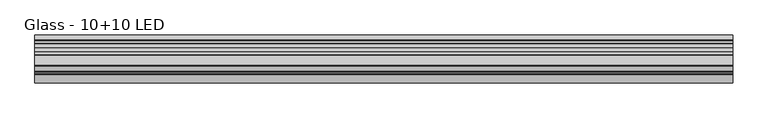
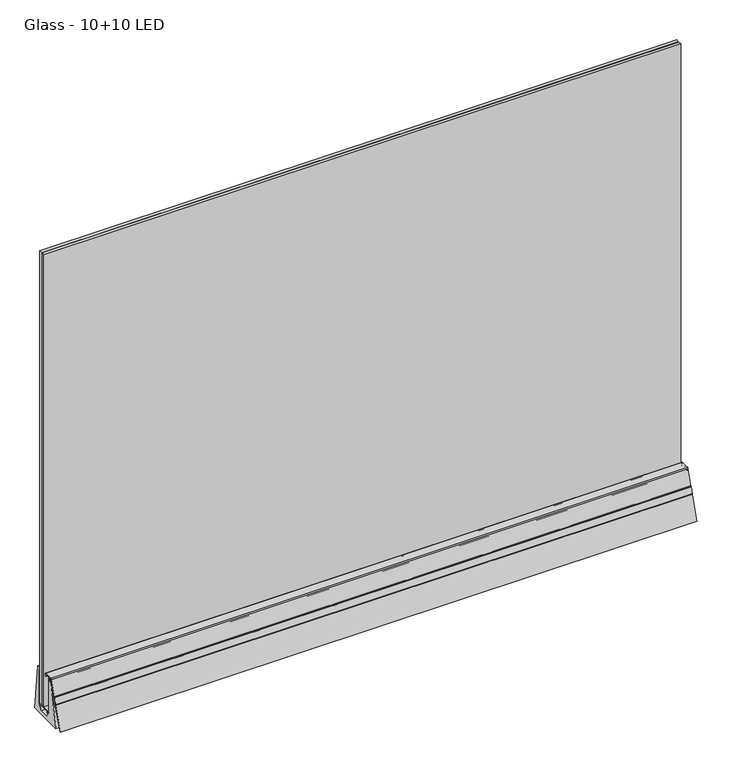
"""IFC4 building model written with IfcOpenShell, lengths in millimetres: proxy geometry, Construction_Slope-Glazing_Faraone_Linea-3-Maxi : Glass - 10+10 LED."""

from ifc_helpers import new_model, si_unit, point, frame, frame_2d, origin, place, context, project, spatial, polyline, circle_curve, trimmed, segment, composite_curve, outline, extrude, source, transform, mapped, element, save


def glass_10_10_led_cbf4bd5c(model_context):
    return source(origin(), model_context, "Body", "SweptSolid", [
        extrude(outline(polyline([(-50.129515, 80.0043708), (-47.8245082, 93.0767141), (-41.6751268, 91.8813954), (-44.115606, 78.9439564), (-50.129515, 80.0043708)])), frame((-1000.0, 0.0, 0.0), z_axis=(1.0, 0.0, 0.0), x_axis=(0.0, 1.0, 0.0)), (0.0, 0.0, 1.0), 2000.0),
        extrude(outline(composite_curve([segment(polyline([(-55.5157622, 78.4484523), (-48.9181738, 97.9110521)]), True, "CONTINUOUS"), segment(trimmed(circle_curve(frame_2d((-48.2435686, 97.6823691)), 0.7123118), [point((-48.9181738, 97.9110521))], [point((-48.0148855, 98.3569742))], False, "CARTESIAN"), True, "CONTINUOUS"), segment(polyline([(-48.0148855, 98.3569742), (-47.2688954, 98.1040925), (-48.0113388, 95.9139166), (-42.9033611, 94.1823733), (-42.328843, 93.4993051)]), True, "CONTINUOUS"), segment(trimmed(circle_curve(frame_2d((-42.6043998, 93.2675385)), 0.3600658), [point((-42.328843, 93.4993051))], [point((-42.7199966, 92.926533))], False, "CARTESIAN"), True, "CONTINUOUS"), segment(polyline([(-42.7199966, 92.926533), (-48.3742751, 94.8432658), (-53.2237164, 80.5376243), (-47.5694379, 78.6208915)]), True, "CONTINUOUS"), segment(trimmed(circle_curve(frame_2d((-47.6850347, 78.279886)), 0.3600658), [point((-47.5694379, 78.6208915))], [point((-47.6072173, 77.9283298))], False, "CARTESIAN"), True, "CONTINUOUS"), segment(polyline([(-47.6072173, 77.9283298), (-48.4786777, 77.735431), (-53.5866555, 79.4669744), (-54.3203301, 77.3026662), (-55.076704, 77.5590679)]), True, "CONTINUOUS"), segment(trimmed(circle_curve(frame_2d((-54.8515409, 78.2232892)), 0.7013476), [point((-55.076704, 77.5590679))], [point((-55.5157622, 78.4484523))], False, "CARTESIAN"), True, "CONTINUOUS")], self_intersect=False)), frame((-1000.0, 0.0, 0.0), z_axis=(1.0, 0.0, 0.0), x_axis=(0.0, 1.0, 0.0)), (0.0, 0.0, 1.0), 2000.0),
        extrude(outline(composite_curve([segment(trimmed(circle_curve(frame_2d((-0.5622607, 149.6202564)), 0.5), [point((-0.5622607, 150.1202564))], [point((-0.0622607, 149.6202564))], False, "CARTESIAN"), True, "CONTINUOUS"), segment(polyline([(-0.0622607, 149.6202564), (-0.0622607, 147.5116834), (-0.8559184, 147.5116834), (-0.8559184, 148.7592807), (-1.7540112, 148.7592807)]), True, "CONTINUOUS"), segment(trimmed(circle_curve(frame_2d((-1.7540112, 148.251018)), 0.5082627), [point((-1.7540112, 148.7592807))], [point((-2.2622739, 148.251018))], True, "CARTESIAN"), True, "CONTINUOUS"), segment(polyline([(-2.2622739, 148.251018), (-2.2622739, 143.7675435)]), True, "CONTINUOUS"), segment(trimmed(circle_curve(frame_2d((-1.7540112, 143.7675435)), 0.5082627), [point((-2.2622739, 143.7675435))], [point((-1.7540112, 143.2592807))], True, "CARTESIAN"), True, "CONTINUOUS"), segment(polyline([(-1.7540112, 143.2592807), (-0.8559184, 143.2592807), (-0.8559184, 144.5068781), (-0.0622607, 144.5068781), (-0.0622607, 142.5592807)]), True, "CONTINUOUS"), segment(trimmed(circle_curve(frame_2d((-0.5622607, 142.5592807)), 0.5), [point((-0.0622607, 142.5592807))], [point((-0.5622607, 142.0592807))], False, "CARTESIAN"), True, "CONTINUOUS"), segment(polyline([(-0.5622607, 142.0592807), (-2.9622736, 142.0592807)]), True, "CONTINUOUS"), segment(trimmed(circle_curve(frame_2d((-2.9622736, 142.559281)), 0.5000003), [point((-2.9622736, 142.0592807))], [point((-3.4622739, 142.559281))], False, "CARTESIAN"), True, "CONTINUOUS"), segment(polyline([(-3.4622739, 142.559281), (-3.4622739, 148.1202567)]), True, "CONTINUOUS"), segment(trimmed(circle_curve(frame_2d((-3.9622739, 148.1202567)), 0.5), [point((-3.4622739, 148.1202567))], [point((-3.9622739, 148.6202567))], True, "CARTESIAN"), True, "CONTINUOUS"), segment(polyline([(-3.9622739, 148.6202567), (-18.4381651, 148.6202569), (-18.4381651, 134.8497503), (-20.5252665, 134.8497503), (-20.5252665, 139.9087036), (-19.6381651, 139.9087036), (-19.6381651, 147.8202569)]), True, "CONTINUOUS"), segment(trimmed(circle_curve(frame_2d((-19.6381651, 148.2202569)), 0.4), [point((-19.6381651, 147.8202569))], [point((-19.6381651, 148.6202569))], True, "CARTESIAN"), True, "CONTINUOUS"), segment(polyline([(-19.6381651, 148.6202569), (-28.9632186, 148.6202569)]), True, "CONTINUOUS"), segment(trimmed(circle_curve(frame_2d((-28.9632186, 147.1202566)), 1.5000003), [point((-28.9632186, 148.6202569))], [point((-30.4632189, 147.1202566))], True, "CARTESIAN"), True, "CONTINUOUS"), segment(polyline([(-30.4632189, 147.1202566), (-30.4632189, 139.9087036), (-29.5827199, 139.9087036), (-29.5827199, 134.8497503), (-31.6632189, 134.8505456), (-31.6632189, 141.4097348)]), True, "CONTINUOUS"), segment(trimmed(circle_curve(frame_2d((-31.9593497, 141.4097348)), 0.2961308), [point((-31.6632189, 141.4097348))], [point((-32.2398046, 141.5048056))], True, "CARTESIAN"), True, "CONTINUOUS"), segment(polyline([(-32.2398046, 141.5048056), (-46.3413122, 99.90597), (-45.3926644, 99.5843897)]), True, "CONTINUOUS"), segment(trimmed(circle_curve(frame_2d((-45.5526494, 99.1124409)), 0.4983281), [point((-45.3926644, 99.5843897))], [point((-45.0807005, 98.9524559))], False, "CARTESIAN"), True, "CONTINUOUS"), segment(polyline([(-45.0807005, 98.9524559), (-45.4664894, 97.8143954), (-39.7713257, 95.883803)]), True, "CONTINUOUS"), segment(trimmed(circle_curve(frame_2d((-39.9945463, 95.2253117)), 0.6952973), [point((-39.7713257, 95.883803))], [point((-39.3112991, 95.096426))], False, "CARTESIAN"), True, "CONTINUOUS"), segment(polyline([(-39.3112991, 95.096426), (-43.284602, 74.0332005)]), True, "CONTINUOUS"), segment(trimmed(circle_curve(frame_2d((-43.9554102, 74.1597397)), 0.6826389), [point((-43.284602, 74.0332005))], [point((-44.174567, 73.5132367))], False, "CARTESIAN"), True, "CONTINUOUS"), segment(polyline([(-44.174567, 73.5132367), (-52.7220729, 76.4107389), (-53.1078618, 75.2726784)]), True, "CONTINUOUS"), segment(trimmed(circle_curve(frame_2d((-53.5798106, 75.4326635)), 0.4983281), [point((-53.1078618, 75.2726784))], [point((-53.7397956, 74.9607146))], False, "CARTESIAN"), True, "CONTINUOUS"), segment(polyline([(-53.7397956, 74.9607146), (-54.6884434, 75.2822949), (-79.3588416, 2.5056904), (-81.0635576, 3.0835687), (-56.092277, 76.7477633)]), True, "CONTINUOUS"), segment(trimmed(circle_curve(frame_2d((-55.5592707, 76.5670805)), 0.5627984), [point((-56.092277, 76.7477633))], [point((-55.3785879, 77.1000869))], False, "CARTESIAN"), True, "CONTINUOUS"), segment(polyline([(-55.3785879, 77.1000869), (-54.4909976, 76.7992044), (-53.8489105, 78.6933333), (-51.4812494, 77.8907245), (-50.0654797, 78.2733379), (-49.3248655, 78.0222785), (-49.5871205, 77.2486374), (-45.2859318, 75.7905859)]), True, "CONTINUOUS"), segment(trimmed(circle_curve(frame_2d((-45.1266639, 76.2604192)), 0.4960943), [point((-45.2859318, 75.7905859))], [point((-44.6391673, 76.1684593))], True, "CARTESIAN"), True, "CONTINUOUS"), segment(polyline([(-44.6391673, 76.1684593), (-41.276617, 93.993971)]), True, "CONTINUOUS"), segment(trimmed(circle_curve(frame_2d((-41.8171023, 94.0959265)), 0.5500176), [point((-41.276617, 93.993971))], [point((-41.6405227, 94.6168286))], True, "CARTESIAN"), True, "CONTINUOUS"), segment(polyline([(-41.6405227, 94.6168286), (-43.4872938, 95.2428619), (-43.7495488, 94.4692208), (-44.490163, 94.7202802), (-45.3814226, 95.8849489), (-47.7490837, 96.6875577), (-47.1069967, 98.5816866), (-47.994587, 98.8825691)]), True, "CONTINUOUS"), segment(trimmed(circle_curve(frame_2d((-47.8139042, 99.4155755)), 0.5627984), [point((-47.994587, 98.8825691))], [point((-48.3469106, 99.5962582))], False, "CARTESIAN"), True, "CONTINUOUS"), segment(polyline([(-48.3469106, 99.5962582), (-31.937351, 148.0037474)]), True, "CONTINUOUS"), segment(trimmed(circle_curve(frame_2d((-28.9850698, 147.0029594)), 3.117297), [point((-31.937351, 148.0037474))], [point((-28.9850698, 150.1202564))], False, "CARTESIAN"), True, "CONTINUOUS"), segment(polyline([(-28.9850698, 150.1202564), (-0.5622607, 150.1202564)]), True, "CONTINUOUS")], self_intersect=False)), frame((-1000.0, 0.0, 0.0), z_axis=(1.0, 0.0, 0.0), x_axis=(0.0, 1.0, 0.0)), (0.0, 0.0, 1.0), 2000.0),
        extrude(outline(polyline([(1000.0, 29.9536793), (1000.0, 20.0036793), (-1000.0, 20.0036793), (-1000.0, 29.9536793), (1000.0, 29.9536793)])), frame((0.0, 0.0, 32.9998941), z_axis=(0.0, 0.0, 1.0), x_axis=(1.0, 0.0, 0.0)), (0.0, 0.0, 1.0), 1500.0),
        extrude(outline(polyline([(1000.0, 18.4036793), (1000.0, 8.4536793), (-1000.0, 8.4536793), (-1000.0, 18.4036793), (1000.0, 18.4036793)])), frame((0.0, 0.0, 32.9998941), z_axis=(0.0, 0.0, 1.0), x_axis=(1.0, 0.0, 0.0)), (0.0, 0.0, 1.0), 1500.0),
        extrude(outline(polyline([(27.9495501, 27.4998941), (28.9495501, 27.4998941), (27.9495501, 23.9998941), (25.4495501, 23.9998941), (25.4495501, 29.9998941), (-10.950381, 29.9998941), (-10.950381, 23.9998941), (-13.450381, 23.9998941), (-14.4501535, 27.4998941), (-13.450381, 27.4998941), (-13.450381, 30.0001664), (-16.4959153, 30.0001664), (-16.4959153, 32.9998941), (30.7553177, 32.9998941), (30.7553177, 140.9999202), (33.4499946, 140.9999202), (33.4499946, 29.9998941), (27.9495501, 29.9998941), (27.9495501, 27.4998941)])), frame((-1000.0, 0.0, 0.0), z_axis=(1.0, 0.0, 0.0), x_axis=(0.0, 1.0, 0.0)), (0.0, 0.0, 1.0), 2000.0),
        extrude(outline(composite_curve([segment(polyline([(-57.25, 0.0), (-31.812192, 134.8497503), (-29.5827199, 134.8497503), (-29.5827199, 141.7168813), (-20.5252665, 141.7168813), (-20.5252665, 134.8497503), (-18.9499762, 134.8497503), (-18.9499762, 30.0001664), (-13.9493491, 30.0001664), (-13.9493491, 28.0001664), (-19.2314658, 28.0001664), (-7.6590914, 11.0005351), (22.522986, 11.0002742), (33.5998649, 28.0000261), (28.4500912, 28.0000261), (28.4500912, 29.9998941), (33.4499946, 29.9998941), (33.4499271, 149.9042043), (40.4619354, 149.9042043)]), True, "CONTINUOUS"), segment(trimmed(circle_curve(frame_2d((40.4619354, 148.7574992)), 1.1467051), [point((40.4619354, 149.9042043))], [point((41.6023587, 148.8773626))], False, "CARTESIAN"), True, "CONTINUOUS"), segment(polyline([(41.6023587, 148.8773626), (57.25, 0.0), (-57.25, 0.0)]), True, "CONTINUOUS")], self_intersect=False)), frame((-1000.0, 0.0, 0.0), z_axis=(1.0, 0.0, 0.0), x_axis=(0.0, 1.0, 0.0)), (0.0, 0.0, 1.0), 2000.0),
    ])


if __name__ == "__main__":
    model = new_model("IFC4")
    model_context = context("Model", 3, world=origin())
    ifc_project = project(units=[si_unit("LENGTHUNIT", "METRE", prefix="MILLI")], contexts=[model_context])
    site = spatial("IfcSite", under=ifc_project)
    building = spatial("IfcBuilding", under=site)
    placement = place(None, origin())
    glass_10_10_led_shape = glass_10_10_led_cbf4bd5c(model_context)
    element("IfcBuildingElementProxy", 1, Name="Construction_Slope-Glazing_Faraone_Linea-3-Maxi : Glass - 10+10 LED", ObjectType="Construction_Slope-Glazing_Faraone_Linea-3-Maxi : Glass - 10+10 LED", at=placement, inside=building, context=model_context, shape_type="MappedRepresentation", body=[
        mapped(glass_10_10_led_shape, transform((0.0, 0.0, 0.0), x_axis=(1.0, 0.0, 0.0), y_axis=(0.0, 1.0, 0.0), z_axis=(0.0, 0.0, 1.0))),
    ])
    save(model, "model.ifc")
